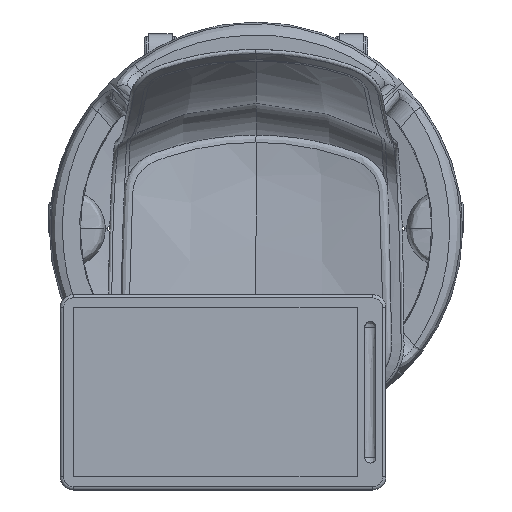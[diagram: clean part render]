
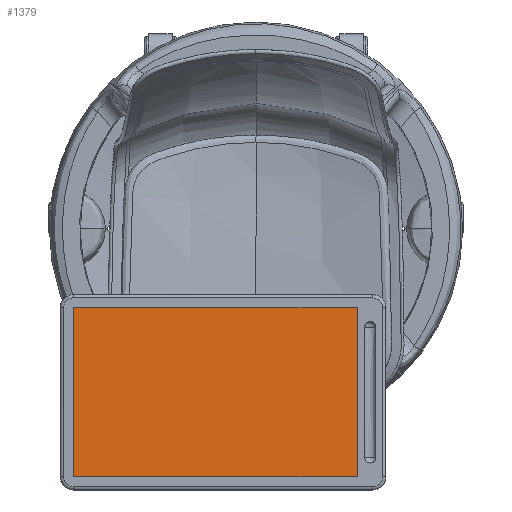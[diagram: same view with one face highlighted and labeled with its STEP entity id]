
A CAD part, top view. The second image highlights one B-rep face of the part: STEP entity #1379.
In plain terms, the highlighted planar face has unit normal (0, 0, 1).
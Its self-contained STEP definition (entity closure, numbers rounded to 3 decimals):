
#1379=ADVANCED_FACE('',(#2187),#13816,.T.);
#2187=FACE_OUTER_BOUND('',#3101,.T.);
#3101=EDGE_LOOP('',(#7013,#7014,#7015,#7016));
#7013=ORIENTED_EDGE('',*,*,#9429,.F.);
#7014=ORIENTED_EDGE('',*,*,#9430,.F.);
#7015=ORIENTED_EDGE('',*,*,#9431,.F.);
#7016=ORIENTED_EDGE('',*,*,#9428,.F.);
#9428=EDGE_CURVE('',#13448,#13451,#11822,.T.);
#9429=EDGE_CURVE('',#13449,#13448,#11823,.T.);
#9430=EDGE_CURVE('',#13450,#13449,#11824,.T.);
#9431=EDGE_CURVE('',#13451,#13450,#11825,.T.);
#11822=B_SPLINE_CURVE_WITH_KNOTS('',1,(#46440,#46441),.UNSPECIFIED.,.F.,
 .F.,(2,2),(0.,460.),.UNSPECIFIED.);
#11823=B_SPLINE_CURVE_WITH_KNOTS('',1,(#46442,#46443),.UNSPECIFIED.,.F.,
 .F.,(2,2),(1180.,1440.),.UNSPECIFIED.);
#11824=B_SPLINE_CURVE_WITH_KNOTS('',1,(#46444,#46445),.UNSPECIFIED.,.F.,
 .F.,(2,2),(720.,1180.),.UNSPECIFIED.);
#11825=B_SPLINE_CURVE_WITH_KNOTS('',1,(#46446,#46447),.UNSPECIFIED.,.F.,
 .F.,(2,2),(460.,720.),.UNSPECIFIED.);
#13448=VERTEX_POINT('',#46436);
#13449=VERTEX_POINT('',#46437);
#13450=VERTEX_POINT('',#46438);
#13451=VERTEX_POINT('',#46439);
#13816=PLANE('',#14622);
#14622=AXIS2_PLACEMENT_3D('',#46435,#14966,$);
#14966=DIRECTION('',(0.,0.,1.));
#46435=CARTESIAN_POINT('',(-300.611,-102.332,701.));
#46436=CARTESIAN_POINT('',(155.389,-382.332,701.));
#46437=CARTESIAN_POINT('',(155.389,-122.332,701.));
#46438=CARTESIAN_POINT('',(-280.611,-122.332,701.));
#46439=CARTESIAN_POINT('',(-280.611,-382.332,701.));
#46440=CARTESIAN_POINT('',(155.389,-382.332,701.));
#46441=CARTESIAN_POINT('',(-280.611,-382.332,701.));
#46442=CARTESIAN_POINT('',(155.389,-122.332,701.));
#46443=CARTESIAN_POINT('',(155.389,-382.332,701.));
#46444=CARTESIAN_POINT('',(-280.611,-122.332,701.));
#46445=CARTESIAN_POINT('',(155.389,-122.332,701.));
#46446=CARTESIAN_POINT('',(-280.611,-382.332,701.));
#46447=CARTESIAN_POINT('',(-280.611,-122.332,701.));
